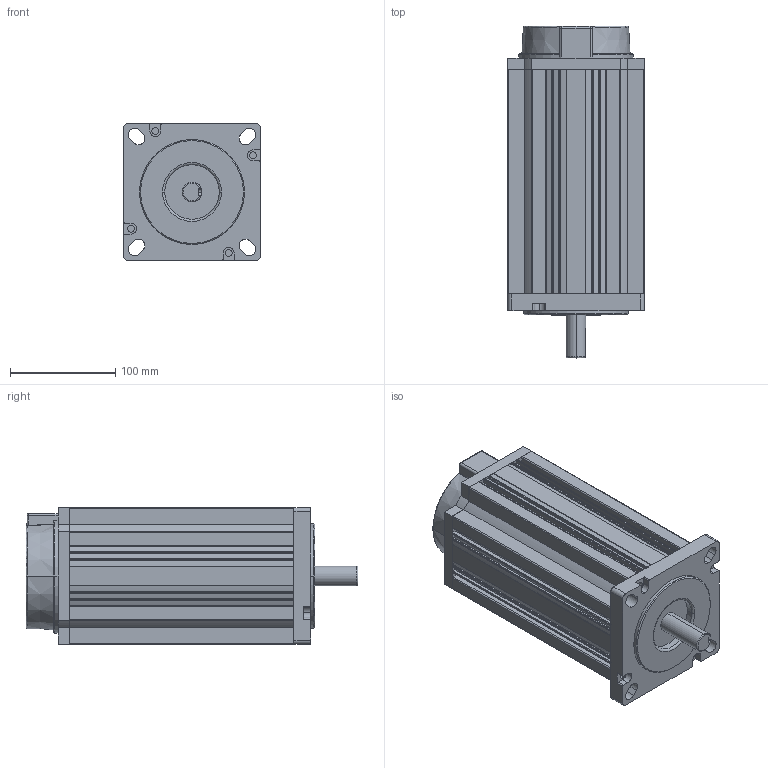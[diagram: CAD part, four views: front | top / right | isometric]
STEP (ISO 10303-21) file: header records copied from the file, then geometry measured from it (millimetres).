
FILE_DESCRIPTION (( 'STEP AP203' ), '1' );
FILE_NAME ('130B50瑩羞6-6-30.STEP', '2025-12-24T03:19:50', ( 'Windows 蚚誧' ), ( '' ), 'SwSTEP 2.0', 'SolidWorks 2020', '' );
FILE_SCHEMA (( 'CONFIG_CONTROL_DESIGN' ));
Length unit declared in the file: millimetre
Products named in the file (1): 130B50瑩羞6-6-30
Bounding box: 130 x 316 x 130 mm (x, y, z)
Volume: 3798384.7 mm3; surface area: 296509.8 mm2
Topology: 4 solids, 4 shells, 316 faces, 873 edges, 572 vertices
Faces by surface type: cylinder 154, plane 131, torus 14, bspline 10, cone 5, sphere 2
Entity records: 10538 total; most frequent: CARTESIAN_POINT 2076, DIRECTION 1819, ORIENTED_EDGE 1746, EDGE_CURVE 873, AXIS2_PLACEMENT_3D 659, VERTEX_POINT 572, VECTOR 501, LINE 501
